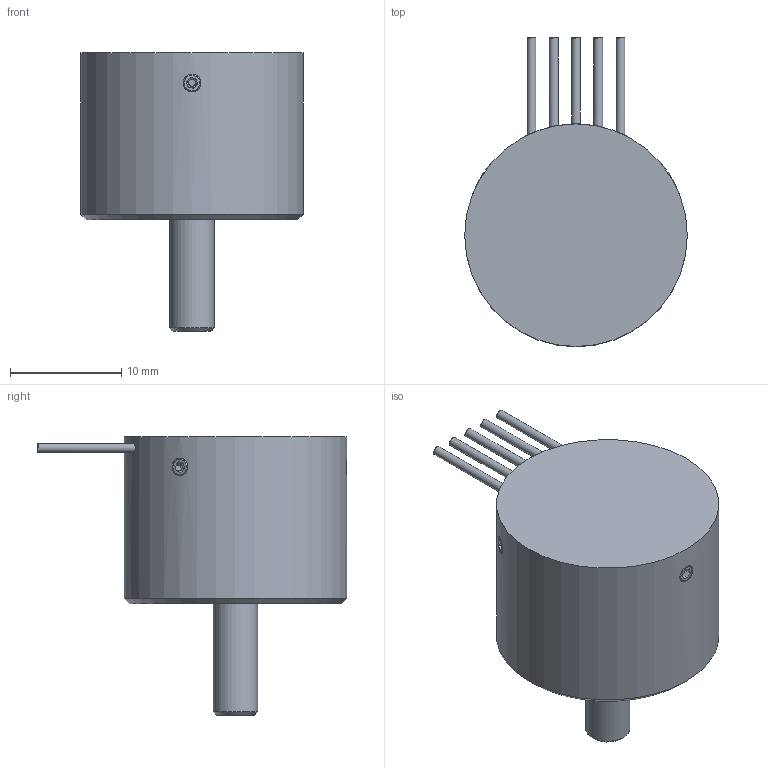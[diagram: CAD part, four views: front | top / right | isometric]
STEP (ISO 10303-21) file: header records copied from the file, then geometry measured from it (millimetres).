
FILE_DESCRIPTION(('STEP AP242'),'1');
FILE_NAME('P.stp','2025-08-19T06:28:40',(' '),(' '),'Spatial InterOp 3D',' ',' ');
FILE_SCHEMA(('AP242_MANAGED_MODEL_BASED_3D_ENGINEERING_MIM_LF {1 0 10303 442 1 1 4}'));
Length unit declared in the file: millimetre
Products named in the file (1): L8E01B MES(4)-17-＊＊＊P
Bounding box: 20 x 27.79 x 25 mm (x, y, z)
Volume: 4814 mm3; surface area: 1864.6 mm2
Topology: 1 solids, 1 shells, 79 faces, 174 edges, 109 vertices
Faces by surface type: plane 43, cylinder 23, cone 13
Full cylindrical faces by diameter (mm): 0.8 x5, 1.6 x7, 4 x1, 6 x1, 20 x1
Entity records: 2864 total; most frequent: CARTESIAN_POINT 606, DIRECTION 314, ORIENTED_EDGE 258, EDGE_CURVE 129, AXIS2_PLACEMENT_3D 121, EDGE_LOOP 120, VERTEX_POINT 95, FACE_OUTER_BOUND 94
